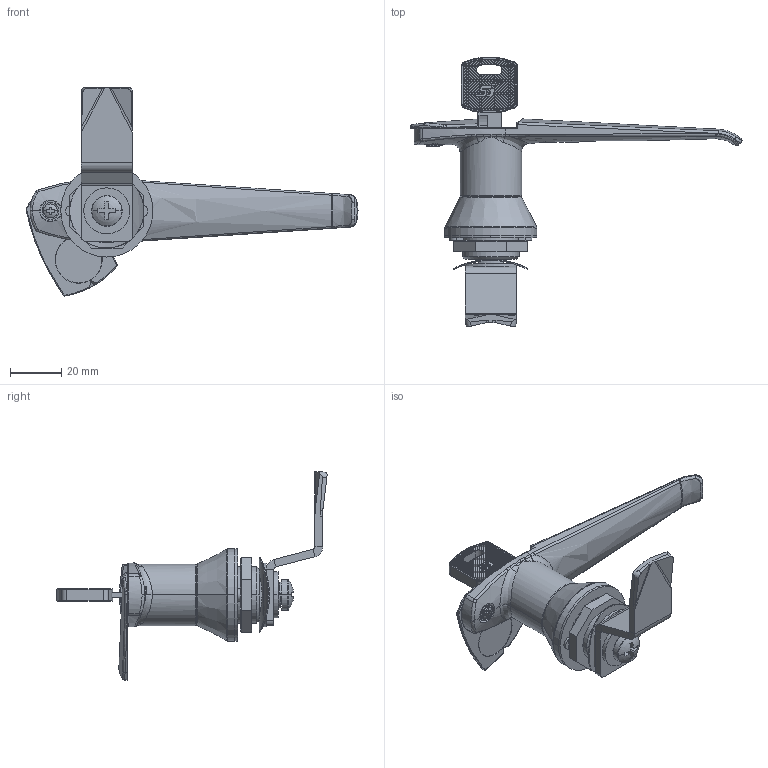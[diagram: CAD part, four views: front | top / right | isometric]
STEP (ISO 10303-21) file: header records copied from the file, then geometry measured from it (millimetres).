
FILE_DESCRIPTION((''),'2;1');
FILE_NAME('3SJ_MS307_0001_ASM','2016-07-13T',('Administrator'),(''),'PRO/ENGINEER BY PARAMETRIC TECHNOLOGY CORPORATION, 2009060','PRO/ENGINEER BY PARAMETRIC TECHNOLOGY CORPORATION, 2009060','');
FILE_SCHEMA(('CONFIG_CONTROL_DESIGN'));
Length unit declared in the file: millimetre
Products named in the file (29): 8SJ_MS307_0010; 8SJ_MS307_0020; 8SJ_MS307_0200; 8SJ_MS304_0760; 8SJ_MS304_0850; 8SJ_MS304_0540; 8SJ-S1H-0003; D6_GB-T96_1-2002; D6_GB-T859-1987; M6X10_GB-T818-2000; 8SJ_L2D0050_0040; 8SJ_L2D0050_0270_4; 8SJ_L2D0050_0270_2; 8SJ_L2D0050_0710; 8SJ_L2D0050_0711; 8SJ_L2D0050_0280; 8SJ_K05_0310; 8SJ_K05_0320; 5SJ_K05_0290_ASM; 8SJ_L2D0050_0250; 5SJ_L2D0050_0001_ASM; 8SJ_MS304_0160; GASKET_18; 8SJ_MS307_0710; 3PINGDIAN; 3X6PANTOULUODING; 8SJ_MS307_0510; O-RING22X2_4; 3SJ_MS307_0001_ASM
Assembly tree (35 placements, depth 4):
  3SJ_MS307_0001_ASM
    8SJ_MS307_0010
    8SJ_MS307_0020
    8SJ_MS307_0200
    8SJ_MS304_0760
    8SJ_MS304_0850
    8SJ_MS304_0540
    8SJ-S1H-0003
    D6_GB-T96_1-2002
    D6_GB-T859-1987
    M6X10_GB-T818-2000
    5SJ_L2D0050_0001_ASM
      8SJ_L2D0050_0040
      8SJ_L2D0050_0270_4  x2
      8SJ_L2D0050_0270_2  x3
      8SJ_L2D0050_0710  x5
      8SJ_L2D0050_0711
      8SJ_L2D0050_0280
      5SJ_K05_0290_ASM
        8SJ_K05_0310
        8SJ_K05_0320
      8SJ_L2D0050_0250
    8SJ_MS304_0160
    GASKET_18
    8SJ_MS307_0710
    3PINGDIAN
    3X6PANTOULUODING
    8SJ_MS307_0510
    O-RING22X2_4
Bounding box: 129.63 x 105.47 x 81.24 mm (x, y, z)
Volume: 50289.3 mm3; surface area: 33650.8 mm2
Topology: 34 solids, 34 shells, 6656 faces, 16752 edges, 11074 vertices
Faces by surface type: plane 6020, cylinder 366, bspline 170, torus 63, cone 26, sphere 9, extrusion 2
Entity records: 210896 total; most frequent: CARTESIAN_POINT 53200, ORIENTED_EDGE 32826, DIRECTION 30228, EDGE_CURVE 16413, VECTOR 14884, LINE 14882, VERTEX_POINT 10868, AXIS2_PLACEMENT_3D 7672
